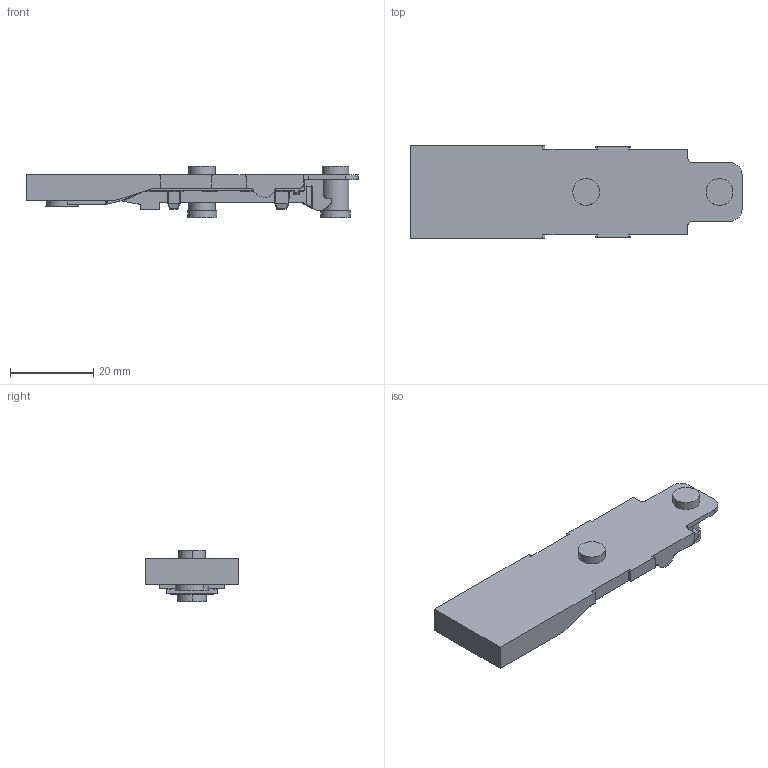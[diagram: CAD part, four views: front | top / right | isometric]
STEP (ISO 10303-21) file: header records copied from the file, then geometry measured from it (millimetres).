
FILE_DESCRIPTION (( 'STEP AP203' ), '1' );
FILE_NAME ('81H02YQA105.STEP', '2024-07-27T09:12:27', ( '微软用户' ), ( '微软中国' ), 'SwSTEP 2.0', 'SolidWorks 2021', '' );
FILE_SCHEMA (( 'CONFIG_CONTROL_DESIGN' ));
Length unit declared in the file: millimetre
Products named in the file (1): 81H02YQA105
Bounding box: 79.7 x 22.4 x 12.25 mm (x, y, z)
Volume: 9621.8 mm3; surface area: 5283.4 mm2
Topology: 1 solids, 1 shells, 525 faces, 1376 edges, 815 vertices
Faces by surface type: cylinder 208, plane 123, bspline 81, torus 72, sphere 41
Entity records: 17308 total; most frequent: CARTESIAN_POINT 5167, ORIENTED_EDGE 2662, DIRECTION 2430, EDGE_CURVE 1331, AXIS2_PLACEMENT_3D 924, VERTEX_POINT 815, LINE 582, VECTOR 582
